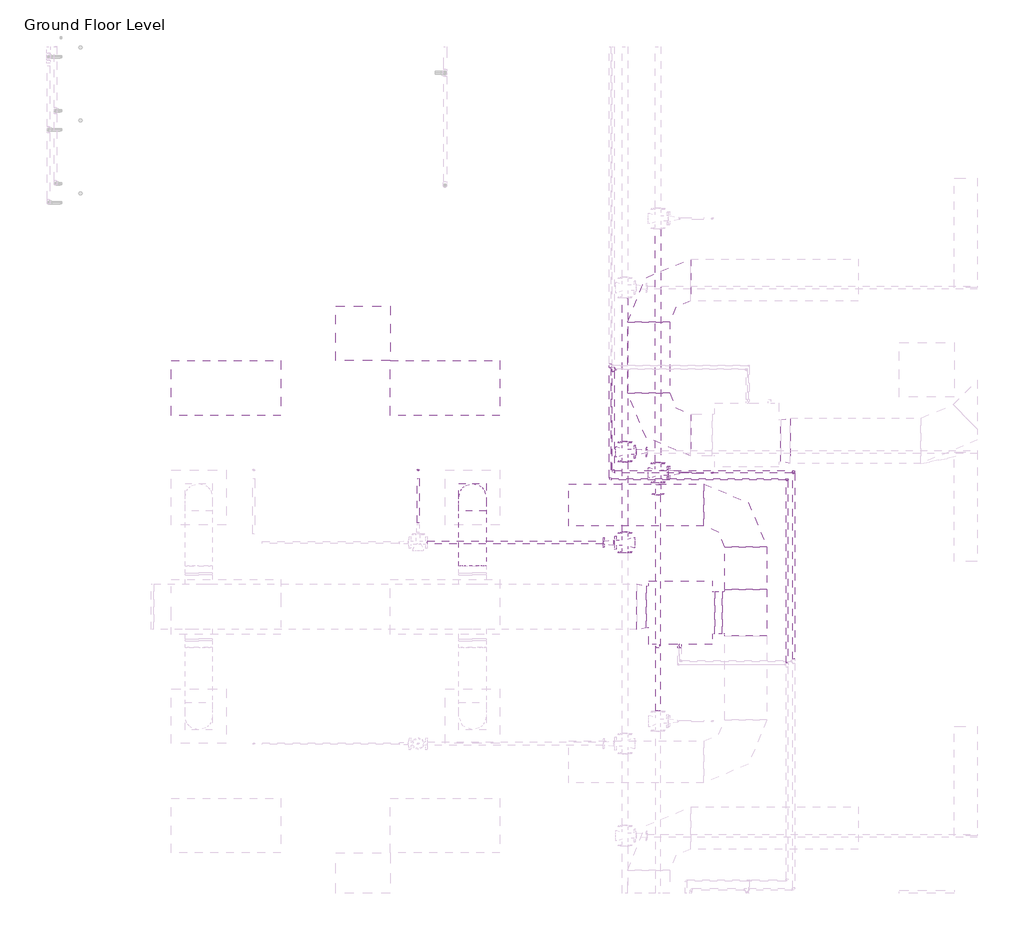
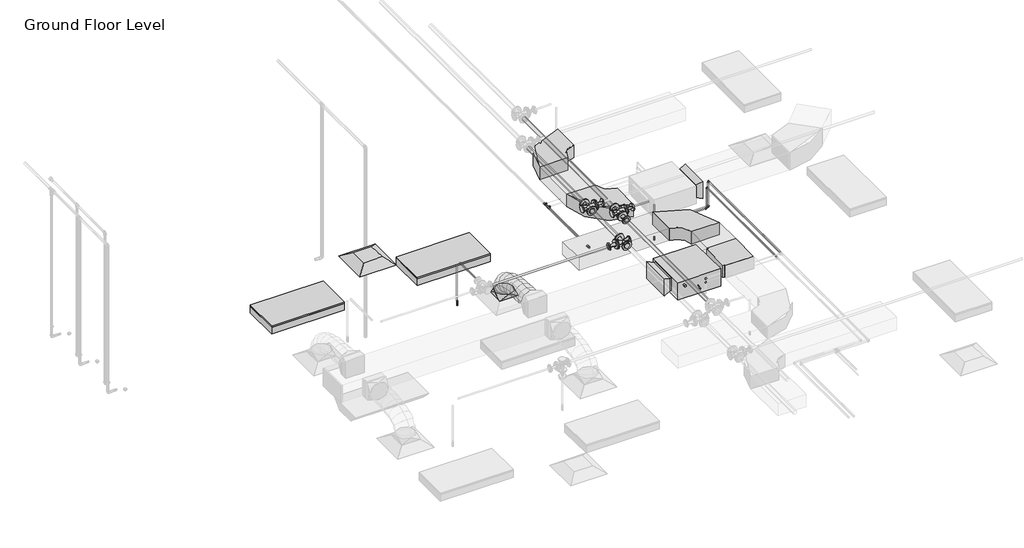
# One storey, part 63 of 75: 17 pipe fittings, 17 pipe segments, 7 duct fittings, 5 duct segments, 2 fire suppression terminals, 2 light fixtures, 1 air terminal, 1 proxy.
"""IFC4 building model written with IfcOpenShell, lengths in millimetres."""

from ifc_helpers import new_model, si_unit, point, frame, frame_2d, origin, place, context, project, spatial, polyline, circle_curve, ellipse_curve, trimmed, segment, composite_curve, outline, extrude, transform, mapped, element, save
from ifc_brep_helpers import plane_surface, cylinder_surface, advanced_brep
from components import m_return_diffuser_600_x_600_face_300_x_300_connection_ff221211, fcu_daikin_iu_bad131e0, m_rectangular_elbow_radius_1_w_54c96895, m_rectangular_tee_standard_fa4de0e8, m_rectangular_transition_angle_45_degree_2b595dfe, m_rectangular_to_round_transition_angle_45_degree_641efff0, m_sprinkler_dry_pendent_hosted_15_mm_dry_pendent_9bda8e11, m_sprinkler_pendent_15_mm_pendent_06fcbd8e, m_troffer_light_parabolic_rectangular1_0600x1200mm_4_lamp_86473d4a, m_elbow_generic_standard_73005802, m_elbow_generic_standard_bb5ffebe, m_reducer_flanged_cs_class_150_standard_9dfe9ec5, m_reducer_flanged_cs_class_150_standard_3ab32b2b, m_reducer_flanged_cs_class_150_standard_a7631c35, m_tee_generic_standard_cdc1cff5, m_tee_generic_standard_bbfc025c, m_tee_round_base_flanged_cs_class_150_standard_dd767e04, m_transition_generic_standard_e9aec4dd, m_transition_generic_standard_c2658a33

model = new_model("IFC4")

# Units and contexts
model_context = context("Model", 3, world=origin())
ifc_project = project(units=[si_unit("LENGTHUNIT", "METRE", prefix="MILLI")], contexts=[model_context])

# Site, building, storey
site = spatial("IfcSite", under=ifc_project)
building = spatial("IfcBuilding", under=site)
storey = spatial("IfcBuildingStorey", under=building, Name="Ground Floor Level", Elevation=900.0)

# Air terminal
placement = place(None, origin())
m_return_diffuser_600_x_600_face_300_x_300_connection_shape = m_return_diffuser_600_x_600_face_300_x_300_connection_ff221211(model_context)
element("IfcAirTerminal", 1, ObjectType="M_Return Diffuser : 600 x 600 Face 300 x 300 Connection", at=placement, inside=storey, context=model_context, shape_type="MappedRepresentation", body=[
    mapped(m_return_diffuser_600_x_600_face_300_x_300_connection_shape, transform((2762.7672395, 7135.2153534, 3650.0), x_axis=(1.0, 0.0, 0.0), y_axis=(0.0, 1.0, 0.0), z_axis=(0.0, 0.0, 1.0))),
])

# Proxy
fcu_daikin_iu_shape = fcu_daikin_iu_bad131e0(model_context)
element("IfcBuildingElementProxy", 2, Name="FCU-DAIKIN IU : 4.5kW, 230V/50Hz/1Ph", ObjectType="FCU-DAIKIN IU : 4.5kW, 230V/50Hz/1Ph", at=placement, inside=storey, context=model_context, shape_type="MappedRepresentation", body=[
    mapped(fcu_daikin_iu_shape, transform((6243.4139492, 4071.5199167, 3934.0875), x_axis=(0.0, -1.0, 0.0), y_axis=(1.0, 0.0, 0.0), z_axis=(0.0, 0.0, 1.0))),
])

# Duct fittings
m_rectangular_elbow_radius_1_w_shape = m_rectangular_elbow_radius_1_w_54c96895(model_context)
element("IfcDuctFitting", 3, ObjectType="M_Rectangular Elbow - Radius : 1 W", at=placement, inside=storey, context=model_context, shape_type="MappedRepresentation", body=[
    mapped(m_rectangular_elbow_radius_1_w_shape, transform((5893.4139492, 6019.6779527, 4075.2932729), x_axis=(0.0, -1.0, 0.0), y_axis=(1.0, 0.0, 0.0), z_axis=(0.0, 0.0, 1.0))),
])
element("IfcDuctFitting", 4, ObjectType="M_Rectangular Elbow - Radius : 1 W", at=placement, inside=storey, context=model_context, shape_type="MappedRepresentation", body=[
    mapped(m_rectangular_elbow_radius_1_w_shape, transform((5893.4139492, 7719.6783949, 4075.2932729), x_axis=(-1.0, 0.0, 0.0), y_axis=(0.0, -1.0, 0.0), z_axis=(0.0, 0.0, 1.0))),
])
element("IfcDuctFitting", 5, ObjectType="M_Rectangular Elbow - Radius : 1 W", at=placement, inside=storey, context=model_context, shape_type="MappedRepresentation", body=[
    mapped(m_rectangular_elbow_radius_1_w_shape, transform((6958.8139492, 5251.5199167, 4075.2875), x_axis=(0.0, 1.0, 0.0), y_axis=(-1.0, 0.0, 0.0), z_axis=(0.0, 0.0, 1.0))),
])
m_rectangular_tee_standard_shape = m_rectangular_tee_standard_fa4de0e8(model_context)
element("IfcDuctFitting", 6, ObjectType="M_Rectangular Tee : Standard", at=placement, inside=storey, context=model_context, shape_type="MappedRepresentation", body=[
    mapped(m_rectangular_tee_standard_shape, transform((6958.8139492, 4071.5199167, 4075.2875), x_axis=(0.0, -1.0, 0.0), y_axis=(1.0, 0.0, 0.0), z_axis=(0.0, 0.0, 1.0))),
])
m_rectangular_transition_angle_45_degree_shape = m_rectangular_transition_angle_45_degree_2b595dfe(model_context)
element("IfcDuctFitting", 7, ObjectType="M_Rectangular Transition - Angle : 45 Degree", at=placement, inside=storey, context=model_context, shape_type="MappedRepresentation", body=[
    mapped(m_rectangular_transition_angle_45_degree_shape, transform((7344.2139492, 5956.1779527, 4100.0057729), x_axis=(1.0, 0.0, 0.0), y_axis=(0.0, 1.0, 0.0), z_axis=(0.0, 0.0, 1.0))),
])
element("IfcDuctFitting", 8, ObjectType="M_Rectangular Transition - Angle : 45 Degree", at=placement, inside=storey, context=model_context, shape_type="MappedRepresentation", body=[
    mapped(m_rectangular_transition_angle_45_degree_shape, transform((5868.0139492, 4135.0199167, 4100.0), x_axis=(-1.0, 0.0, 0.0), y_axis=(0.0, -1.0, 0.0), z_axis=(0.0, 0.0, 1.0))),
])
m_rectangular_to_round_transition_angle_45_degree_shape = m_rectangular_to_round_transition_angle_45_degree_641efff0(model_context)
element("IfcDuctFitting", 9, ObjectType="M_Rectangular to Round Transition - Angle : 45 Degree", at=placement, inside=storey, context=model_context, shape_type="MappedRepresentation", body=[
    mapped(m_rectangular_to_round_transition_angle_45_degree_shape, transform((3962.7672395, 5335.2153534, 3751.6), x_axis=(0.0, 0.0, 1.0), y_axis=(-1.0, 0.0, 0.0), z_axis=(0.0, -1.0, 0.0))),
])

# Duct segments
element("IfcDuctSegment", 10, ObjectType="Flex - Round", at=placement, inside=storey, context=model_context, shape_type="AdvancedBrep", body=[
    advanced_brep(
    [(4112.7672395, 5335.2153534, 3826.6), (3962.7672395, 5185.2153534, 3826.6), (3812.7672395, 5335.2153534, 3826.6), (3962.7672395, 5485.2153534, 3826.6), (4112.7672395, 5335.2153534, 3857.9378899), (3962.7672395, 5185.2153534, 3832.2944495), (3812.7672395, 5335.2153534, 3857.9378899), (3962.7672395, 5485.2153534, 3883.5813304), (4112.7672395, 5318.1993029, 3906.2506504), (3962.7672395, 5184.4615918, 3834.4345644), (3812.7672395, 5318.1993029, 3906.2506504), (3962.7672395, 5451.9370141, 3978.0667363), (4112.7672395, 5271.0151016, 3968.7111185), (3962.7672395, 5166.8099301, 3857.8010943), (3812.7672395, 5271.0151016, 3968.7111185), (3962.7672395, 5375.220273, 4079.6211427), (4112.7672395, 5199.4586743, 4016.0693384), (3962.7672395, 5130.5257656, 3881.8150579), (3812.7672395, 5199.4586743, 4016.0693384), (3962.7672395, 5268.3915831, 4150.3236188), (4112.7672395, 5109.3259463, 4050.413244), (3962.7672395, 5065.7664368, 3906.4907592), (3812.7672395, 5109.3259463, 4050.413244), (3962.7672395, 5152.8854558, 4194.3357287), (4112.7672395, 5006.4128425, 4073.8307693), (3962.7672395, 4979.8531069, 3926.0400441), (3812.7672395, 5006.4128425, 4073.8307693), (3962.7672395, 5032.9725781, 4221.6214946), (4112.7672395, 4896.5152879, 4088.4098484), (3962.7672395, 4881.3654185, 3939.1054831), (3812.7672395, 4896.5152879, 4088.4098484), (3962.7672395, 4911.6651573, 4237.7142137), (4112.7672395, 4785.4292075, 4096.2384151), (3962.7672395, 4777.924683, 3946.3952596), (3812.7672395, 4785.4292075, 4096.2384151), (3962.7672395, 4792.9337321, 4246.0815706), (4112.7672395, 4678.9505265, 4099.4044036), (3962.7672395, 4676.2595056, 3949.4181256), (3812.7672395, 4678.9505265, 4099.4044036), (3962.7672395, 4681.6415474, 4249.3906816), (4112.7672395, 4582.8751699, 4099.9957478), (3962.7672395, 4583.7984029, 4249.9929065), (3812.7672395, 4582.8751699, 4099.9957478), (3962.7672395, 4581.9519368, 3949.998589)],
    [
        (0, 1, circle_curve(frame((3962.7672395, 5335.2153534, 3826.6), z_axis=(0.0, 0.0, -1.0), x_axis=(1.0, 0.0, 0.0)), 150.0)),
        (1, 2, circle_curve(frame((3962.7672395, 5335.2153534, 3826.6), z_axis=(0.0, 0.0, -1.0), x_axis=(1.0, 0.0, 0.0)), 150.0)),
        (2, 3, circle_curve(frame((3962.7672395, 5335.2153534, 3826.6), z_axis=(0.0, 0.0, -1.0), x_axis=(1.0, 0.0, 0.0)), 150.0)),
        (3, 0, circle_curve(frame((3962.7672395, 5335.2153534, 3826.6), z_axis=(0.0, 0.0, -1.0), x_axis=(1.0, 0.0, 0.0)), 150.0)),
        (0, 4),
        (4, 5, ellipse_curve(frame((3962.7672395, 5335.2153534, 3857.9378899), z_axis=(0.0, 0.1685115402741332, -0.9856996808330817), x_axis=(0.0, -0.9856996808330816, -0.16851154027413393)), 152.1761678, 150.0)),
        (5, 1),
        (5, 6, ellipse_curve(frame((3962.7672395, 5335.2153534, 3857.9378899), z_axis=(0.0, 0.1685115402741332, -0.9856996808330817), x_axis=(0.0, -0.9856996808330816, -0.16851154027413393)), 152.1761678, 150.0)),
        (6, 2),
        (6, 7, ellipse_curve(frame((3962.7672395, 5335.2153534, 3857.9378899), z_axis=(0.0, 0.1685115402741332, -0.9856996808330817), x_axis=(0.0, -0.9856996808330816, -0.16851154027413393)), 152.1761678, 150.0)),
        (7, 3),
        (7, 4, ellipse_curve(frame((3962.7672395, 5335.2153534, 3857.9378899), z_axis=(0.0, 0.1685115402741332, -0.9856996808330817), x_axis=(0.0, -0.9856996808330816, -0.16851154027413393)), 152.1761678, 150.0)),
        (4, 8),
        (8, 9, ellipse_curve(frame((3962.7672395, 5318.1993029, 3906.2506504), z_axis=(0.0, 0.47309586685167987, -0.8810109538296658), x_axis=(0.0, -0.8810109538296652, -0.4730958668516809)), 151.8002819, 150.0)),
        (9, 5),
        (9, 10, ellipse_curve(frame((3962.7672395, 5318.1993029, 3906.2506504), z_axis=(0.0, 0.47309586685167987, -0.8810109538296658), x_axis=(0.0, -0.8810109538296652, -0.4730958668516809)), 151.8002819, 150.0)),
        (10, 6),
        (10, 11, ellipse_curve(frame((3962.7672395, 5318.1993029, 3906.2506504), z_axis=(0.0, 0.47309586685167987, -0.8810109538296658), x_axis=(0.0, -0.8810109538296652, -0.4730958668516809)), 151.8002819, 150.0)),
        (11, 7),
        (11, 8, ellipse_curve(frame((3962.7672395, 5318.1993029, 3906.2506504), z_axis=(0.0, 0.47309586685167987, -0.8810109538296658), x_axis=(0.0, -0.8810109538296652, -0.4730958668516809)), 151.8002819, 150.0)),
        (8, 12),
        (12, 13, ellipse_curve(frame((3962.7672395, 5271.0151016, 3968.7111185), z_axis=(0.0, 0.7287924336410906, -0.6847346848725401), x_axis=(0.0, -0.6847346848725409, -0.7287924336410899)), 152.1832817, 150.0)),
        (13, 9),
        (13, 14, ellipse_curve(frame((3962.7672395, 5271.0151016, 3968.7111185), z_axis=(0.0, 0.7287924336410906, -0.6847346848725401), x_axis=(0.0, -0.6847346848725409, -0.7287924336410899)), 152.1832817, 150.0)),
        (14, 10),
        (14, 15, ellipse_curve(frame((3962.7672395, 5271.0151016, 3968.7111185), z_axis=(0.0, 0.7287924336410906, -0.6847346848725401), x_axis=(0.0, -0.6847346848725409, -0.7287924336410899)), 152.1832817, 150.0)),
        (15, 11),
        (15, 12, ellipse_curve(frame((3962.7672395, 5271.0151016, 3968.7111185), z_axis=(0.0, 0.7287924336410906, -0.6847346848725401), x_axis=(0.0, -0.6847346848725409, -0.7287924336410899)), 152.1832817, 150.0)),
        (12, 16),
        (16, 17, ellipse_curve(frame((3962.7672395, 5199.4586743, 4016.0693384), z_axis=(0.0, 0.8895898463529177, -0.45676022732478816), x_axis=(0.0, -0.456760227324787, -0.8895898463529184)), 150.9170558, 150.0)),
        (17, 13),
        (17, 18, ellipse_curve(frame((3962.7672395, 5199.4586743, 4016.0693384), z_axis=(0.0, 0.8895898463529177, -0.45676022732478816), x_axis=(0.0, -0.456760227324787, -0.8895898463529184)), 150.9170558, 150.0)),
        (18, 14),
        (18, 19, ellipse_curve(frame((3962.7672395, 5199.4586743, 4016.0693384), z_axis=(0.0, 0.8895898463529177, -0.45676022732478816), x_axis=(0.0, -0.456760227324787, -0.8895898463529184)), 150.9170558, 150.0)),
        (19, 15),
        (19, 16, ellipse_curve(frame((3962.7672395, 5199.4586743, 4016.0693384), z_axis=(0.0, 0.8895898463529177, -0.45676022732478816), x_axis=(0.0, -0.456760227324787, -0.8895898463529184)), 150.9170558, 150.0)),
        (16, 20),
        (20, 21, ellipse_curve(frame((3962.7672395, 5109.3259463, 4050.413244), z_axis=(0.0, 0.9571228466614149, -0.28968233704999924), x_axis=(0.0, -0.28968233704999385, -0.9571228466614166)), 150.3699188, 150.0)),
        (21, 17),
        (21, 22, ellipse_curve(frame((3962.7672395, 5109.3259463, 4050.413244), z_axis=(0.0, 0.9571228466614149, -0.28968233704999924), x_axis=(0.0, -0.28968233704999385, -0.9571228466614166)), 150.3699188, 150.0)),
        (22, 18),
        (22, 23, ellipse_curve(frame((3962.7672395, 5109.3259463, 4050.413244), z_axis=(0.0, 0.9571228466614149, -0.28968233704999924), x_axis=(0.0, -0.28968233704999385, -0.9571228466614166)), 150.3699188, 150.0)),
        (23, 19),
        (23, 20, ellipse_curve(frame((3962.7672395, 5109.3259463, 4050.413244), z_axis=(0.0, 0.9571228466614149, -0.28968233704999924), x_axis=(0.0, -0.28968233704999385, -0.9571228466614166)), 150.3699188, 150.0)),
        (20, 24),
        (24, 25, ellipse_curve(frame((3962.7672395, 5006.4128425, 4073.8307693), z_axis=(0.0, 0.9842327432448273, -0.17687822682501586), x_axis=(0.0, -0.176878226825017, -0.9842327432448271)), 150.1583099, 150.0)),
        (25, 21),
        (25, 26, ellipse_curve(frame((3962.7672395, 5006.4128425, 4073.8307693), z_axis=(0.0, 0.9842327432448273, -0.17687822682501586), x_axis=(0.0, -0.176878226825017, -0.9842327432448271)), 150.1583099, 150.0)),
        (26, 22),
        (26, 27, ellipse_curve(frame((3962.7672395, 5006.4128425, 4073.8307693), z_axis=(0.0, 0.9842327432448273, -0.17687822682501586), x_axis=(0.0, -0.176878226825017, -0.9842327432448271)), 150.1583099, 150.0)),
        (27, 23),
        (27, 24, ellipse_curve(frame((3962.7672395, 5006.4128425, 4073.8307693), z_axis=(0.0, 0.9842327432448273, -0.17687822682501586), x_axis=(0.0, -0.176878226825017, -0.9842327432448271)), 150.1583099, 150.0)),
        (24, 28),
        (28, 29, ellipse_curve(frame((3962.7672395, 4896.5152879, 4088.4098484), z_axis=(0.0, 0.9948913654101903, -0.10095133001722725), x_axis=(0.0, -0.10095133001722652, -0.9948913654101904)), 150.0710233, 150.0)),
        (29, 25),
        (29, 30, ellipse_curve(frame((3962.7672395, 4896.5152879, 4088.4098484), z_axis=(0.0, 0.9948913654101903, -0.10095133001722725), x_axis=(0.0, -0.10095133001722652, -0.9948913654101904)), 150.0710233, 150.0)),
        (30, 26),
        (30, 31, ellipse_curve(frame((3962.7672395, 4896.5152879, 4088.4098484), z_axis=(0.0, 0.9948913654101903, -0.10095133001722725), x_axis=(0.0, -0.10095133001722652, -0.9948913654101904)), 150.0710233, 150.0)),
        (31, 27),
        (31, 28, ellipse_curve(frame((3962.7672395, 4896.5152879, 4088.4098484), z_axis=(0.0, 0.9948913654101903, -0.10095133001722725), x_axis=(0.0, -0.10095133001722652, -0.9948913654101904)), 150.0710233, 150.0)),
        (28, 32),
        (32, 33, ellipse_curve(frame((3962.7672395, 4785.4292075, 4096.2384151), z_axis=(0.0, 0.9987482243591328, -0.05001983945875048), x_axis=(0.0, -0.05001983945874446, -0.9987482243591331)), 150.0309606, 150.0)),
        (33, 29),
        (33, 34, ellipse_curve(frame((3962.7672395, 4785.4292075, 4096.2384151), z_axis=(0.0, 0.9987482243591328, -0.05001983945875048), x_axis=(0.0, -0.05001983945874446, -0.9987482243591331)), 150.0309606, 150.0)),
        (34, 30),
        (34, 35, ellipse_curve(frame((3962.7672395, 4785.4292075, 4096.2384151), z_axis=(0.0, 0.9987482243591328, -0.05001983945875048), x_axis=(0.0, -0.05001983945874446, -0.9987482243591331)), 150.0309606, 150.0)),
        (35, 31),
        (35, 32, ellipse_curve(frame((3962.7672395, 4785.4292075, 4096.2384151), z_axis=(0.0, 0.9987482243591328, -0.05001983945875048), x_axis=(0.0, -0.05001983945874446, -0.9987482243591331)), 150.0309606, 150.0)),
        (32, 36),
        (36, 37, ellipse_curve(frame((3962.7672395, 4678.9505265, 4099.4044036), z_axis=(0.0, 0.9998390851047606, -0.017938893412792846), x_axis=(0.0, -0.01793889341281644, -0.99983908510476)), 150.0104169, 150.0)),
        (37, 33),
        (37, 38, ellipse_curve(frame((3962.7672395, 4678.9505265, 4099.4044036), z_axis=(0.0, 0.9998390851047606, -0.017938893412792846), x_axis=(0.0, -0.01793889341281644, -0.99983908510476)), 150.0104169, 150.0)),
        (38, 34),
        (38, 39, ellipse_curve(frame((3962.7672395, 4678.9505265, 4099.4044036), z_axis=(0.0, 0.9998390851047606, -0.017938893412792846), x_axis=(0.0, -0.01793889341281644, -0.99983908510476)), 150.0104169, 150.0)),
        (39, 35),
        (39, 36, ellipse_curve(frame((3962.7672395, 4678.9505265, 4099.4044036), z_axis=(0.0, 0.9998390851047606, -0.017938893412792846), x_axis=(0.0, -0.01793889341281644, -0.99983908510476)), 150.0104169, 150.0)),
        (40, 41, circle_curve(frame((3962.7672395, 4582.8751699, 4099.9957478), z_axis=(0.0, -0.9999810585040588, 0.006154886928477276), x_axis=(1.0, 0.0, 0.0)), 150.0)),
        (41, 42, circle_curve(frame((3962.7672395, 4582.8751699, 4099.9957478), z_axis=(0.0, -0.9999810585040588, 0.006154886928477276), x_axis=(1.0, 0.0, 0.0)), 150.0)),
        (42, 43, circle_curve(frame((3962.7672395, 4582.8751699, 4099.9957478), z_axis=(0.0, -0.9999810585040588, 0.006154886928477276), x_axis=(1.0, 0.0, 0.0)), 150.0)),
        (43, 40, circle_curve(frame((3962.7672395, 4582.8751699, 4099.9957478), z_axis=(0.0, -0.9999810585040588, 0.006154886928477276), x_axis=(1.0, 0.0, 0.0)), 150.0)),
        (36, 40),
        (43, 37),
        (42, 38),
        (41, 39),
    ],
    [
        plane_surface(frame((3962.7672395, 5185.2153534, 3826.6), z_axis=(0.0, 0.0, -1.0), x_axis=(1.0, 0.0, 0.0))),
        cylinder_surface(frame((3962.7672395, 5335.2153534, 3826.6), z_axis=(0.0, 0.0, -1.0), x_axis=(1.0, 0.0, 0.0)), 150.0),
        cylinder_surface(frame((3962.7672395, 5335.2153534, 3857.9378899), z_axis=(0.0, 0.3322035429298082, -0.9432077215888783), x_axis=(1.0, 0.0, 0.0)), 150.0),
        cylinder_surface(frame((3962.7672395, 5318.1993029, 3906.2506504), z_axis=(0.0, 0.6027667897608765, -0.797917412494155), x_axis=(1.0, 0.0, 0.0)), 150.0),
        cylinder_surface(frame((3962.7672395, 5271.0151016, 3968.7111185), z_axis=(0.0, 0.8339069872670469, -0.5519050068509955), x_axis=(1.0, 0.0, 0.0)), 150.0),
        cylinder_surface(frame((3962.7672395, 5199.4586743, 4016.0693384), z_axis=(0.0, 0.934461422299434, -0.35606439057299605), x_axis=(1.0, 0.0, 0.0)), 150.0),
        cylinder_surface(frame((3962.7672395, 5109.3259463, 4050.413244), z_axis=(0.0, 0.9750751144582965, -0.22187501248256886), x_axis=(1.0, 0.0, 0.0)), 150.0),
        cylinder_surface(frame((3962.7672395, 5006.4128425, 4073.8307693), z_axis=(0.0, 0.9913150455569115, -0.1315084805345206), x_axis=(1.0, 0.0, 0.0)), 150.0),
        cylinder_surface(frame((3962.7672395, 4896.5152879, 4088.4098484), z_axis=(0.0, 0.997525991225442, -0.07029862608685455), x_axis=(1.0, 0.0, 0.0)), 150.0),
        cylinder_surface(frame((3962.7672395, 4785.4292075, 4096.2384151), z_axis=(0.0, 0.9995582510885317, -0.029720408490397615), x_axis=(1.0, 0.0, 0.0)), 150.0),
        plane_surface(frame((3962.7672395, 4581.9519368, 3949.998589), z_axis=(0.0, -0.9999810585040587, 0.006154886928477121), x_axis=(1.0, 0.0, 0.0))),
        cylinder_surface(frame((3962.7672395, 4678.9505265, 4099.4044036), z_axis=(0.0, 0.9999810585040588, -0.006154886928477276), x_axis=(1.0, 0.0, 0.0)), 150.0),
    ],
    [
        (0, [[1, 2, 3, 4]]),
        (1, [[-1, 5, 6, 7]]),
        (1, [[-2, -7, 8, 9]]),
        (1, [[-3, -9, 10, 11]]),
        (1, [[-4, -11, 12, -5]]),
        (2, [[-6, 13, 14, 15]]),
        (2, [[-8, -15, 16, 17]]),
        (2, [[-10, -17, 18, 19]]),
        (2, [[-12, -19, 20, -13]]),
        (3, [[-14, 21, 22, 23]]),
        (3, [[-16, -23, 24, 25]]),
        (3, [[-18, -25, 26, 27]]),
        (3, [[-20, -27, 28, -21]]),
        (4, [[-22, 29, 30, 31]]),
        (4, [[-24, -31, 32, 33]]),
        (4, [[-26, -33, 34, 35]]),
        (4, [[-28, -35, 36, -29]]),
        (5, [[-30, 37, 38, 39]]),
        (5, [[-32, -39, 40, 41]]),
        (5, [[-34, -41, 42, 43]]),
        (5, [[-36, -43, 44, -37]]),
        (6, [[-38, 45, 46, 47]]),
        (6, [[-40, -47, 48, 49]]),
        (6, [[-42, -49, 50, 51]]),
        (6, [[-44, -51, 52, -45]]),
        (7, [[-46, 53, 54, 55]]),
        (7, [[-48, -55, 56, 57]]),
        (7, [[-50, -57, 58, 59]]),
        (7, [[-52, -59, 60, -53]]),
        (8, [[-54, 61, 62, 63]]),
        (8, [[-56, -63, 64, 65]]),
        (8, [[-58, -65, 66, 67]]),
        (8, [[-60, -67, 68, -61]]),
        (9, [[-62, 69, 70, 71]]),
        (9, [[-64, -71, 72, 73]]),
        (9, [[-66, -73, 74, 75]]),
        (9, [[-68, -75, 76, -69]]),
        (10, [[77, 78, 79, 80]]),
        (11, [[-70, 81, -80, 82]]),
        (11, [[-72, -82, -79, 83]]),
        (11, [[-74, -83, -78, 84]]),
        (11, [[-76, -84, -77, -81]]),
    ],
),
])
element("IfcDuctSegment", 11, ObjectType="Radius Elbows / Taps", at=placement, inside=storey, context=model_context, shape_type="SweptSolid", body=[
    extrude(outline(polyline([(6124.3514492, 6481.5529527), (5662.4764492, 6481.5529527), (5662.4764492, 7257.8033949), (6124.3514492, 7257.8033949), (6124.3514492, 6481.5529527)])), frame((0.0, 0.0, 3968.1432729), z_axis=(0.0, 0.0, 1.0), x_axis=(1.0, 0.0, 0.0)), (0.0, 0.0, 1.0), 214.3),
])
element("IfcDuctSegment", 12, ObjectType="Radius Elbows / Taps", at=placement, inside=storey, context=model_context, shape_type="SweptSolid", body=[
    extrude(outline(polyline([(6618.8139492, 3840.5824167), (6618.8139492, 4302.4574167), (6702.8764492, 4302.4574167), (6702.8764492, 3840.5824167), (6618.8139492, 3840.5824167)])), frame((0.0, 0.0, 3968.1375), z_axis=(0.0, 0.0, 1.0), x_axis=(1.0, 0.0, 0.0)), (0.0, 0.0, 1.0), 214.3),
])
element("IfcDuctSegment", 13, ObjectType="Radius Elbows / Taps", at=placement, inside=storey, context=model_context, shape_type="SweptSolid", body=[
    extrude(outline(polyline([(7189.7514492, 4327.4574167), (6727.8764492, 4327.4574167), (6727.8764492, 4789.6449167), (7189.7514492, 4789.6449167), (7189.7514492, 4327.4574167)])), frame((0.0, 0.0, 3968.1375), z_axis=(0.0, 0.0, 1.0), x_axis=(1.0, 0.0, 0.0)), (0.0, 0.0, 1.0), 214.3),
])
element("IfcDuctSegment", 14, ObjectType="Radius Elbows / Taps", at=placement, inside=storey, context=model_context, shape_type="SweptSolid", body=[
    extrude(outline(polyline([(6496.9389492, 5482.4574167), (6496.9389492, 5020.5824167), (5018.8139492, 5020.5824167), (5018.8139492, 5482.4574167), (6496.9389492, 5482.4574167)])), frame((0.0, 0.0, 3968.1375), z_axis=(0.0, 0.0, 1.0), x_axis=(1.0, 0.0, 0.0)), (0.0, 0.0, 1.0), 214.3),
])

# Fire suppression terminals
m_sprinkler_dry_pendent_hosted_15_mm_dry_pendent_shape = m_sprinkler_dry_pendent_hosted_15_mm_dry_pendent_9bda8e11(model_context)
element("IfcFireSuppressionTerminal", 15, ObjectType="M_Sprinkler - Dry - Pendent - Hosted : 15 mm Dry Pendent", at=placement, inside=storey, context=model_context, shape_type="MappedRepresentation", body=[
    mapped(m_sprinkler_dry_pendent_hosted_15_mm_dry_pendent_shape, transform((3367.3772563, 5635.2153534, 3650.0), x_axis=(1.0, 0.0, 0.0), y_axis=(0.0, -1.0, 0.0), z_axis=(0.0, 0.0, -1.0))),
])
m_sprinkler_pendent_15_mm_pendent_shape = m_sprinkler_pendent_15_mm_pendent_06fcbd8e(model_context)
element("IfcFireSuppressionTerminal", 16, ObjectType="M_Sprinkler - Pendent : 15 mm Pendent", at=placement, inside=storey, context=model_context, shape_type="MappedRepresentation", body=[
    mapped(m_sprinkler_pendent_15_mm_pendent_shape, transform((6592.5481019, 5605.2153637, 3650.0), x_axis=(1.0, 0.0, 0.0), y_axis=(0.0, 1.0, 0.0), z_axis=(0.0, 0.0, 1.0))),
])

# Light fixtures
m_troffer_light_parabolic_rectangular1_0600x1200mm_4_lamp_shape = m_troffer_light_parabolic_rectangular1_0600x1200mm_4_lamp_86473d4a(model_context)
element("IfcLightFixture", 17, ObjectType="M_Troffer Light - Parabolic Rectangular1 : 0600x1200mm(4 Lamp) - 277V 2", at=placement, inside=storey, context=model_context, shape_type="MappedRepresentation", body=[
    mapped(m_troffer_light_parabolic_rectangular1_0600x1200mm_4_lamp_shape, transform((1281.4707411, 6594.6812855, 3650.0), x_axis=(1.0, 0.0, 0.0), y_axis=(0.0, 1.0, 0.0), z_axis=(0.0, 0.0, 1.0))),
])
element("IfcLightFixture", 18, ObjectType="M_Troffer Light - Parabolic Rectangular1 : 0600x1200mm(4 Lamp) - 277V 2", at=placement, inside=storey, context=model_context, shape_type="MappedRepresentation", body=[
    mapped(m_troffer_light_parabolic_rectangular1_0600x1200mm_4_lamp_shape, transform((3681.4707411, 6594.6812855, 3650.0), x_axis=(1.0, 0.0, 0.0), y_axis=(0.0, 1.0, 0.0), z_axis=(0.0, 0.0, 1.0))),
])

# Pipe fittings
m_elbow_generic_standard_shape = m_elbow_generic_standard_73005802(model_context)
element("IfcPipeFitting", 19, ObjectType="M_Elbow - Generic : Standard", at=placement, inside=storey, context=model_context, shape_type="MappedRepresentation", body=[
    mapped(m_elbow_generic_standard_shape, transform((7485.0672395, 5616.0098545, 4300.0), x_axis=(0.0, 1.0, 0.0), y_axis=(0.0, 0.0, -1.0), z_axis=(-1.0, 0.0, 0.0))),
])
element("IfcPipeFitting", 20, ObjectType="M_Elbow - Generic : Standard", at=placement, inside=storey, context=model_context, shape_type="MappedRepresentation", body=[
    mapped(m_elbow_generic_standard_shape, transform((7485.0672395, 5616.0098545, 3851.8370709), x_axis=(0.0, 0.0, -1.0), y_axis=(-1.0, 0.0, 0.0), z_axis=(0.0, 1.0, 0.0))),
])
element("IfcPipeFitting", 21, ObjectType="M_Elbow - Generic : Standard", at=placement, inside=storey, context=model_context, shape_type="MappedRepresentation", body=[
    mapped(m_elbow_generic_standard_shape, transform((5505.0672395, 5616.0098545, 3851.8370709), x_axis=(0.0, -1.0, 0.0), y_axis=(1.0, 0.0, 0.0), z_axis=(0.0, 0.0, 1.0))),
])
m_elbow_generic_standard_2_shape = m_elbow_generic_standard_bb5ffebe(model_context)
element("IfcPipeFitting", 22, ObjectType="M_Elbow - Generic : Standard", at=placement, inside=storey, context=model_context, shape_type="MappedRepresentation", body=[
    mapped(m_elbow_generic_standard_2_shape, transform((7412.2057053, 5534.0185138, 4265.0), x_axis=(0.0, 1.0, 0.0), y_axis=(0.0, 0.0, -1.0), z_axis=(-1.0, 0.0, 0.0))),
])
element("IfcPipeFitting", 23, ObjectType="M_Elbow - Generic : Standard", at=placement, inside=storey, context=model_context, shape_type="MappedRepresentation", body=[
    mapped(m_elbow_generic_standard_2_shape, transform((7412.2057053, 5534.0185138, 3894.9), x_axis=(0.0, 0.0, -1.0), y_axis=(-1.0, 0.0, 0.0), z_axis=(0.0, 1.0, 0.0))),
])
element("IfcPipeFitting", 24, ObjectType="M_Elbow - Generic : Standard", at=placement, inside=storey, context=model_context, shape_type="MappedRepresentation", body=[
    mapped(m_elbow_generic_standard_2_shape, transform((5472.2057053, 5534.0185138, 3894.9), x_axis=(0.0, -1.0, 0.0), y_axis=(1.0, 0.0, 0.0), z_axis=(0.0, 0.0, 1.0))),
])
m_reducer_flanged_cs_class_150_standard_shape = m_reducer_flanged_cs_class_150_standard_9dfe9ec5(model_context)
element("IfcPipeFitting", 25, ObjectType="M_Reducer - Flanged - CS - Class 150 : Standard", at=placement, inside=storey, context=model_context, shape_type="MappedRepresentation", body=[
    mapped(m_reducer_flanged_cs_class_150_standard_shape, transform((6111.057812, 5605.2153637, 4291.250653), x_axis=(1.0, 0.0, 0.0), y_axis=(0.0, 0.0, -1.0), z_axis=(0.0, 1.0, 0.0))),
])
m_reducer_flanged_cs_class_150_standard_2_shape = m_reducer_flanged_cs_class_150_standard_3ab32b2b(model_context)
element("IfcPipeFitting", 26, ObjectType="M_Reducer - Flanged - CS - Class 150 : Standard", at=placement, inside=storey, context=model_context, shape_type="MappedRepresentation", body=[
    mapped(m_reducer_flanged_cs_class_150_standard_2_shape, transform((5997.057812, 5491.2153637, 4291.0695218), x_axis=(0.0, -1.0, 0.0), y_axis=(1.0, 0.0, 0.0), z_axis=(0.0, 0.0, 1.0))),
])
m_reducer_flanged_cs_class_150_standard_3_shape = m_reducer_flanged_cs_class_150_standard_a7631c35(model_context)
element("IfcPipeFitting", 27, ObjectType="M_Reducer - Flanged - CS - Class 150 : Standard", at=placement, inside=storey, context=model_context, shape_type="MappedRepresentation", body=[
    mapped(m_reducer_flanged_cs_class_150_standard_3_shape, transform((5749.869498, 5835.2153534, 4360.0), x_axis=(1.0, 0.0, 0.0), y_axis=(0.0, 0.0, 1.0), z_axis=(0.0, -1.0, 0.0))),
])
element("IfcPipeFitting", 28, ObjectType="M_Reducer - Flanged - CS - Class 150 : Standard", at=placement, inside=storey, context=model_context, shape_type="MappedRepresentation", body=[
    mapped(m_reducer_flanged_cs_class_150_standard_3_shape, transform((5521.869498, 4839.8698912, 4360.0), x_axis=(-1.0, 0.0, 0.0), y_axis=(0.0, -1.0, 0.0), z_axis=(0.0, 0.0, 1.0))),
])
m_tee_generic_standard_shape = m_tee_generic_standard_cdc1cff5(model_context)
element("IfcPipeFitting", 29, ObjectType="M_Tee - Generic : Standard", at=placement, inside=storey, context=model_context, shape_type="MappedRepresentation", body=[
    mapped(m_tee_generic_standard_shape, transform((5472.2057053, 6781.5253374, 3894.9), x_axis=(0.0, 1.0, 0.0), y_axis=(-1.0, 0.0, 0.0), z_axis=(0.0, 0.0, 1.0))),
])
m_tee_generic_standard_2_shape = m_tee_generic_standard_bbfc025c(model_context)
element("IfcPipeFitting", 30, ObjectType="M_Tee - Generic : Standard", at=placement, inside=storey, context=model_context, shape_type="MappedRepresentation", body=[
    mapped(m_tee_generic_standard_2_shape, transform((5505.0672395, 6741.4098545, 3851.8370709), x_axis=(0.0, 1.0, 0.0), y_axis=(-1.0, 0.0, 0.0), z_axis=(0.0, 0.0, 1.0))),
])
m_tee_round_base_flanged_cs_class_150_standard_shape = m_tee_round_base_flanged_cs_class_150_standard_dd767e04(model_context)
element("IfcPipeFitting", 31, ObjectType="M_Tee Round Base - Flanged - CS - Class 150 : Standard", at=placement, inside=storey, context=model_context, shape_type="MappedRepresentation", body=[
    mapped(m_tee_round_base_flanged_cs_class_150_standard_shape, transform((5997.057812, 5605.2153637, 4291.0695218), x_axis=(0.0, 1.0, 0.0), y_axis=(-1.0, 0.0, 0.0), z_axis=(0.0, 0.0, 1.0))),
])
element("IfcPipeFitting", 32, ObjectType="M_Tee Round Base - Flanged - CS - Class 150 : Standard", at=placement, inside=storey, context=model_context, shape_type="MappedRepresentation", body=[
    mapped(m_tee_round_base_flanged_cs_class_150_standard_shape, transform((5635.869498, 5835.2153534, 4360.0), x_axis=(0.0, 1.0, 0.0), y_axis=(-1.0, 0.0, 0.0), z_axis=(0.0, 0.0, 1.0))),
])
element("IfcPipeFitting", 33, ObjectType="M_Tee Round Base - Flanged - CS - Class 150 : Standard", at=placement, inside=storey, context=model_context, shape_type="MappedRepresentation", body=[
    mapped(m_tee_round_base_flanged_cs_class_150_standard_shape, transform((5635.869498, 4839.8698912, 4360.0), x_axis=(0.0, 1.0, 0.0), y_axis=(1.0, 0.0, 0.0), z_axis=(0.0, 0.0, -1.0))),
])
m_transition_generic_standard_shape = m_transition_generic_standard_e9aec4dd(model_context)
element("IfcPipeFitting", 34, ObjectType="M_Transition - Generic : Standard", at=placement, inside=storey, context=model_context, shape_type="MappedRepresentation", body=[
    mapped(m_transition_generic_standard_shape, transform((5530.4672395, 6741.4098545, 3851.8370709), x_axis=(1.0, 0.0, 0.0), y_axis=(0.0, 1.0, 0.0), z_axis=(0.0, 0.0, 1.0))),
])
m_transition_generic_standard_2_shape = m_transition_generic_standard_c2658a33(model_context)
element("IfcPipeFitting", 35, ObjectType="M_Transition - Generic : Standard", at=placement, inside=storey, context=model_context, shape_type="MappedRepresentation", body=[
    mapped(m_transition_generic_standard_2_shape, transform((5494.4307053, 6781.5253374, 3894.9), x_axis=(1.0, 0.0, 0.0), y_axis=(0.0, 1.0, 0.0), z_axis=(0.0, 0.0, 1.0))),
])

# Pipe segments
element("IfcPipeSegment", 36, ObjectType="Copper", at=placement, inside=storey, context=model_context, shape_type="SweptSolid", body=[
    extrude(outline(composite_curve([segment(trimmed(circle_curve(frame_2d((3894.9, 5472.2057053)), 8.1), [point((3894.9, 5464.1057053))], [point((3886.8, 5472.2057053))], False, "CARTESIAN"), True, "CONTINUOUS"), segment(trimmed(circle_curve(frame_2d((3894.9, 5472.2057053)), 8.1), [point((3886.8, 5472.2057053))], [point((3894.9, 5480.3057053))], False, "CARTESIAN"), True, "CONTINUOUS"), segment(trimmed(circle_curve(frame_2d((3894.9, 5472.2057053)), 8.1), [point((3894.9, 5480.3057053))], [point((3903.0, 5472.2057053))], False, "CARTESIAN"), True, "CONTINUOUS"), segment(trimmed(circle_curve(frame_2d((3894.9, 5472.2057053)), 8.1), [point((3903.0, 5472.2057053))], [point((3894.9, 5464.1057053))], False, "CARTESIAN"), True, "CONTINUOUS")], self_intersect=False)), frame((0.0, 5549.8935138, 0.0), z_axis=(0.0, 1.0, 0.0), x_axis=(0.0, 0.0, 1.0)), (0.0, 0.0, 1.0), 1209.4068236),
])
element("IfcPipeSegment", 37, ObjectType="Copper", at=placement, inside=storey, context=model_context, shape_type="SweptSolid", body=[
    extrude(outline(composite_curve([segment(trimmed(circle_curve(frame_2d((3851.8370709, 5505.0672395)), 11.5), [point((3851.8370709, 5493.5672395))], [point((3840.3370709, 5505.0672395))], False, "CARTESIAN"), True, "CONTINUOUS"), segment(trimmed(circle_curve(frame_2d((3851.8370709, 5505.0672395)), 11.5), [point((3840.3370709, 5505.0672395))], [point((3851.8370709, 5516.5672395))], False, "CARTESIAN"), True, "CONTINUOUS"), segment(trimmed(circle_curve(frame_2d((3851.8370709, 5505.0672395)), 11.5), [point((3851.8370709, 5516.5672395))], [point((3863.3370709, 5505.0672395))], False, "CARTESIAN"), True, "CONTINUOUS"), segment(trimmed(circle_curve(frame_2d((3851.8370709, 5505.0672395)), 11.5), [point((3863.3370709, 5505.0672395))], [point((3851.8370709, 5493.5672395))], False, "CARTESIAN"), True, "CONTINUOUS")], self_intersect=False)), frame((0.0, 5635.0598545, 0.0), z_axis=(0.0, 1.0, 0.0), x_axis=(0.0, 0.0, 1.0)), (0.0, 0.0, 1.0), 1080.95),
])
element("IfcPipeSegment", 38, ObjectType="Copper", at=placement, inside=storey, context=model_context, shape_type="SweptSolid", body=[
    extrude(outline(composite_curve([segment(trimmed(circle_curve(frame_2d((5616.0098545, 3851.8370709)), 11.5), [point((5627.5098545, 3851.8370709))], [point((5616.0098545, 3840.3370709))], False, "CARTESIAN"), True, "CONTINUOUS"), segment(trimmed(circle_curve(frame_2d((5616.0098545, 3851.8370709)), 11.5), [point((5616.0098545, 3840.3370709))], [point((5604.5098545, 3851.8370709))], False, "CARTESIAN"), True, "CONTINUOUS"), segment(trimmed(circle_curve(frame_2d((5616.0098545, 3851.8370709)), 11.5), [point((5604.5098545, 3851.8370709))], [point((5616.0098545, 3863.3370709))], False, "CARTESIAN"), True, "CONTINUOUS"), segment(trimmed(circle_curve(frame_2d((5616.0098545, 3851.8370709)), 11.5), [point((5616.0098545, 3863.3370709))], [point((5627.5098545, 3851.8370709))], False, "CARTESIAN"), True, "CONTINUOUS")], self_intersect=False)), frame((5524.1172395, 0.0, 0.0), z_axis=(1.0, 0.0, 0.0), x_axis=(0.0, 1.0, 0.0)), (0.0, 0.0, 1.0), 1941.9),
])
element("IfcPipeSegment", 39, ObjectType="Copper", at=placement, inside=storey, context=model_context, shape_type="SweptSolid", body=[
    extrude(outline(composite_curve([segment(trimmed(circle_curve(frame_2d((5534.0185138, 3894.9)), 8.1), [point((5542.1185138, 3894.9))], [point((5534.0185138, 3886.8))], False, "CARTESIAN"), True, "CONTINUOUS"), segment(trimmed(circle_curve(frame_2d((5534.0185138, 3894.9)), 8.1), [point((5534.0185138, 3886.8))], [point((5525.9185138, 3894.9))], False, "CARTESIAN"), True, "CONTINUOUS"), segment(trimmed(circle_curve(frame_2d((5534.0185138, 3894.9)), 8.1), [point((5525.9185138, 3894.9))], [point((5534.0185138, 3903.0))], False, "CARTESIAN"), True, "CONTINUOUS"), segment(trimmed(circle_curve(frame_2d((5534.0185138, 3894.9)), 8.1), [point((5534.0185138, 3903.0))], [point((5542.1185138, 3894.9))], False, "CARTESIAN"), True, "CONTINUOUS")], self_intersect=False)), frame((5488.0807053, 0.0, 0.0), z_axis=(1.0, 0.0, 0.0), x_axis=(0.0, 1.0, 0.0)), (0.0, 0.0, 1.0), 1908.25),
])
element("IfcPipeSegment", 40, ObjectType="Copper", at=placement, inside=storey, context=model_context, shape_type="SweptSolid", body=[
    extrude(outline(composite_curve([segment(trimmed(circle_curve(frame_2d((4265.0, 7412.2057053)), 8.1), [point((4265.0, 7404.1057053))], [point((4256.9, 7412.2057053))], False, "CARTESIAN"), True, "CONTINUOUS"), segment(trimmed(circle_curve(frame_2d((4265.0, 7412.2057053)), 8.1), [point((4256.9, 7412.2057053))], [point((4265.0, 7420.3057053))], False, "CARTESIAN"), True, "CONTINUOUS"), segment(trimmed(circle_curve(frame_2d((4265.0, 7412.2057053)), 8.1), [point((4265.0, 7420.3057053))], [point((4273.1, 7412.2057053))], False, "CARTESIAN"), True, "CONTINUOUS"), segment(trimmed(circle_curve(frame_2d((4265.0, 7412.2057053)), 8.1), [point((4273.1, 7412.2057053))], [point((4265.0, 7404.1057053))], False, "CARTESIAN"), True, "CONTINUOUS")], self_intersect=False)), frame((0.0, 3521.8280827, 0.0), z_axis=(0.0, 1.0, 0.0), x_axis=(0.0, 0.0, 1.0)), (0.0, 0.0, 1.0), 1996.3154311),
])
element("IfcPipeSegment", 41, ObjectType="Copper", at=placement, inside=storey, context=model_context, shape_type="SweptSolid", body=[
    extrude(outline(composite_curve([segment(trimmed(circle_curve(frame_2d((4300.0, 7485.0672395)), 11.5), [point((4300.0, 7473.5672395))], [point((4288.5, 7485.0672395))], False, "CARTESIAN"), True, "CONTINUOUS"), segment(trimmed(circle_curve(frame_2d((4300.0, 7485.0672395)), 11.5), [point((4288.5, 7485.0672395))], [point((4300.0, 7496.5672395))], False, "CARTESIAN"), True, "CONTINUOUS"), segment(trimmed(circle_curve(frame_2d((4300.0, 7485.0672395)), 11.5), [point((4300.0, 7496.5672395))], [point((4311.5, 7485.0672395))], False, "CARTESIAN"), True, "CONTINUOUS"), segment(trimmed(circle_curve(frame_2d((4300.0, 7485.0672395)), 11.5), [point((4311.5, 7485.0672395))], [point((4300.0, 7473.5672395))], False, "CARTESIAN"), True, "CONTINUOUS")], self_intersect=False)), frame((0.0, 3564.8875998, 0.0), z_axis=(0.0, 1.0, 0.0), x_axis=(0.0, 0.0, 1.0)), (0.0, 0.0, 1.0), 2032.0722547),
])
element("IfcPipeSegment", 42, ObjectType="Copper", at=placement, inside=storey, context=model_context, shape_type="SweptSolid", body=[
    extrude(outline(composite_curve([segment(trimmed(circle_curve(frame_2d((7412.2057053, 5534.0185138)), 8.1), [point((7420.3057053, 5534.0185138))], [point((7412.2057053, 5525.9185138))], False, "CARTESIAN"), True, "CONTINUOUS"), segment(trimmed(circle_curve(frame_2d((7412.2057053, 5534.0185138)), 8.1), [point((7412.2057053, 5525.9185138))], [point((7404.1057053, 5534.0185138))], False, "CARTESIAN"), True, "CONTINUOUS"), segment(trimmed(circle_curve(frame_2d((7412.2057053, 5534.0185138)), 8.1), [point((7404.1057053, 5534.0185138))], [point((7412.2057053, 5542.1185138))], False, "CARTESIAN"), True, "CONTINUOUS"), segment(trimmed(circle_curve(frame_2d((7412.2057053, 5534.0185138)), 8.1), [point((7412.2057053, 5542.1185138))], [point((7420.3057053, 5534.0185138))], False, "CARTESIAN"), True, "CONTINUOUS")], self_intersect=False)), frame((0.0, 0.0, 3910.775), z_axis=(0.0, 0.0, 1.0), x_axis=(1.0, 0.0, 0.0)), (0.0, 0.0, 1.0), 338.35),
])
element("IfcPipeSegment", 43, ObjectType="Copper", at=placement, inside=storey, context=model_context, shape_type="SweptSolid", body=[
    extrude(outline(composite_curve([segment(trimmed(circle_curve(frame_2d((7485.0672395, 5616.0098545)), 11.5), [point((7496.5672395, 5616.0098545))], [point((7485.0672395, 5604.5098545))], False, "CARTESIAN"), True, "CONTINUOUS"), segment(trimmed(circle_curve(frame_2d((7485.0672395, 5616.0098545)), 11.5), [point((7485.0672395, 5604.5098545))], [point((7473.5672395, 5616.0098545))], False, "CARTESIAN"), True, "CONTINUOUS"), segment(trimmed(circle_curve(frame_2d((7485.0672395, 5616.0098545)), 11.5), [point((7473.5672395, 5616.0098545))], [point((7485.0672395, 5627.5098545))], False, "CARTESIAN"), True, "CONTINUOUS"), segment(trimmed(circle_curve(frame_2d((7485.0672395, 5616.0098545)), 11.5), [point((7485.0672395, 5627.5098545))], [point((7496.5672395, 5616.0098545))], False, "CARTESIAN"), True, "CONTINUOUS")], self_intersect=False)), frame((0.0, 0.0, 3870.8870709), z_axis=(0.0, 0.0, 1.0), x_axis=(1.0, 0.0, 0.0)), (0.0, 0.0, 1.0), 410.0629291),
])
element("IfcPipeSegment", 44, ObjectType="Steel flanged", at=placement, inside=storey, context=model_context, shape_type="SweptSolid", body=[
    extrude(outline(composite_curve([segment(trimmed(circle_curve(frame_2d((6592.5481019, 5605.2153637)), 10.668), [point((6581.8801019, 5605.2153637))], [point((6592.5481019, 5615.8833637))], False, "CARTESIAN"), True, "CONTINUOUS"), segment(trimmed(circle_curve(frame_2d((6592.5481019, 5605.2153637)), 10.668), [point((6592.5481019, 5615.8833637))], [point((6603.2161019, 5605.2153637))], False, "CARTESIAN"), True, "CONTINUOUS"), segment(trimmed(circle_curve(frame_2d((6592.5481019, 5605.2153637)), 10.668), [point((6603.2161019, 5605.2153637))], [point((6592.5481019, 5594.5473637))], False, "CARTESIAN"), True, "CONTINUOUS"), segment(trimmed(circle_curve(frame_2d((6592.5481019, 5605.2153637)), 10.668), [point((6592.5481019, 5594.5473637))], [point((6581.8801019, 5605.2153637))], False, "CARTESIAN"), True, "CONTINUOUS")], self_intersect=False)), frame((0.0, 0.0, 3650.0), z_axis=(0.0, 0.0, 1.0), x_axis=(1.0, 0.0, 0.0)), (0.0, 0.0, 1.0), 548.2420592),
])
element("IfcPipeSegment", 45, ObjectType="Steel flanged", at=placement, inside=storey, context=model_context, shape_type="SweptSolid", body=[
    extrude(outline(composite_curve([segment(trimmed(circle_curve(frame_2d((5605.2153637, 4291.250653)), 10.668), [point((5615.8833637, 4291.250653))], [point((5605.2153637, 4280.582653))], False, "CARTESIAN"), True, "CONTINUOUS"), segment(trimmed(circle_curve(frame_2d((5605.2153637, 4291.250653)), 10.668), [point((5605.2153637, 4280.582653))], [point((5594.5473637, 4291.250653))], False, "CARTESIAN"), True, "CONTINUOUS"), segment(trimmed(circle_curve(frame_2d((5605.2153637, 4291.250653)), 10.668), [point((5594.5473637, 4291.250653))], [point((5605.2153637, 4301.918653))], False, "CARTESIAN"), True, "CONTINUOUS"), segment(trimmed(circle_curve(frame_2d((5605.2153637, 4291.250653)), 10.668), [point((5605.2153637, 4301.918653))], [point((5615.8833637, 4291.250653))], False, "CARTESIAN"), True, "CONTINUOUS")], self_intersect=False)), frame((6238.057812, 0.0, 0.0), z_axis=(1.0, 0.0, 0.0), x_axis=(0.0, 1.0, 0.0)), (0.0, 0.0, 1.0), 261.4816962),
])
element("IfcPipeSegment", 46, ObjectType="Steel flanged", at=placement, inside=storey, context=model_context, shape_type="SweptSolid", body=[
    extrude(outline(composite_curve([segment(trimmed(circle_curve(frame_2d((0.0, -30.1625)), 30.1625), [point((0.0, 0.0))], [point((30.1625, -30.1625))], False, "CARTESIAN"), True, "CONTINUOUS"), segment(trimmed(circle_curve(frame_2d((0.0, -30.1625)), 30.1625), [point((30.1625, -30.1625))], [point((0.0, -60.325))], False, "CARTESIAN"), True, "CONTINUOUS"), segment(trimmed(circle_curve(frame_2d((0.0, -30.1625)), 30.1625), [point((0.0, -60.325))], [point((-30.1625, -30.1625))], False, "CARTESIAN"), True, "CONTINUOUS"), segment(trimmed(circle_curve(frame_2d((0.0, -30.1625)), 30.1625), [point((-30.1625, -30.1625))], [point((0.0, 0.0))], False, "CARTESIAN"), True, "CONTINUOUS")], self_intersect=False)), frame((5966.895312, 5719.2153637, 4291.0695218), z_axis=(0.0, 0.9999999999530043, 9.694924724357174e-06), x_axis=(0.0, 9.694924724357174e-06, -0.9999999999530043)), (0.0, 0.0, 1.0), 2560.342547),
])
element("IfcPipeSegment", 47, ObjectType="Steel flanged", at=placement, inside=storey, context=model_context, shape_type="SweptSolid", body=[
    extrude(outline(composite_curve([segment(trimmed(circle_curve(frame_2d((0.0, 24.13)), 24.13), [point((0.0, 0.0))], [point((-24.13, 24.13))], False, "CARTESIAN"), True, "CONTINUOUS"), segment(trimmed(circle_curve(frame_2d((0.0, 24.13)), 24.13), [point((-24.13, 24.13))], [point((0.0, 48.26))], False, "CARTESIAN"), True, "CONTINUOUS"), segment(trimmed(circle_curve(frame_2d((0.0, 24.13)), 24.13), [point((0.0, 48.26))], [point((24.13, 24.13))], False, "CARTESIAN"), True, "CONTINUOUS"), segment(trimmed(circle_curve(frame_2d((0.0, 24.13)), 24.13), [point((24.13, 24.13))], [point((0.0, 0.0))], False, "CARTESIAN"), True, "CONTINUOUS")], self_intersect=False)), frame((5972.927812, 5364.2153637, 4291.0695218), z_axis=(0.0, -0.9999999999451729, 1.0471597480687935e-05), x_axis=(0.0, -1.0471597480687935e-05, -0.9999999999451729)), (0.0, 0.0, 1.0), 2370.4433135),
])
element("IfcPipeSegment", 48, ObjectType="Steel flanged", at=placement, inside=storey, context=model_context, shape_type="SweptSolid", body=[
    extrude(outline(composite_curve([segment(trimmed(circle_curve(frame_2d((4360.0, 5635.869498)), 30.1625), [point((4360.0, 5605.706998))], [point((4329.8375, 5635.869498))], False, "CARTESIAN"), True, "CONTINUOUS"), segment(trimmed(circle_curve(frame_2d((4360.0, 5635.869498)), 30.1625), [point((4329.8375, 5635.869498))], [point((4360.0, 5666.031998))], False, "CARTESIAN"), True, "CONTINUOUS"), segment(trimmed(circle_curve(frame_2d((4360.0, 5635.869498)), 30.1625), [point((4360.0, 5666.031998))], [point((4390.1625, 5635.869498))], False, "CARTESIAN"), True, "CONTINUOUS"), segment(trimmed(circle_curve(frame_2d((4360.0, 5635.869498)), 30.1625), [point((4390.1625, 5635.869498))], [point((4360.0, 5605.706998))], False, "CARTESIAN"), True, "CONTINUOUS")], self_intersect=False)), frame((0.0, 5949.2153534, 0.0), z_axis=(0.0, 1.0, 0.0), x_axis=(0.0, 0.0, 1.0)), (0.0, 0.0, 1.0), 1572.0),
])
element("IfcPipeSegment", 49, ObjectType="Steel flanged", at=placement, inside=storey, context=model_context, shape_type="SweptSolid", body=[
    extrude(outline(composite_curve([segment(trimmed(circle_curve(frame_2d((4360.0, 5635.869498)), 30.1625), [point((4360.0, 5605.706998))], [point((4329.8375, 5635.869498))], False, "CARTESIAN"), True, "CONTINUOUS"), segment(trimmed(circle_curve(frame_2d((4360.0, 5635.869498)), 30.1625), [point((4329.8375, 5635.869498))], [point((4360.0, 5666.031998))], False, "CARTESIAN"), True, "CONTINUOUS"), segment(trimmed(circle_curve(frame_2d((4360.0, 5635.869498)), 30.1625), [point((4360.0, 5666.031998))], [point((4390.1625, 5635.869498))], False, "CARTESIAN"), True, "CONTINUOUS"), segment(trimmed(circle_curve(frame_2d((4360.0, 5635.869498)), 30.1625), [point((4390.1625, 5635.869498))], [point((4360.0, 5605.706998))], False, "CARTESIAN"), True, "CONTINUOUS")], self_intersect=False)), frame((0.0, 4953.8698912, 0.0), z_axis=(0.0, 1.0, 0.0), x_axis=(0.0, 0.0, 1.0)), (0.0, 0.0, 1.0), 767.3454622),
])
element("IfcPipeSegment", 50, ObjectType="Steel flanged", at=placement, inside=storey, context=model_context, shape_type="SweptSolid", body=[
    extrude(outline(composite_curve([segment(trimmed(circle_curve(frame_2d((3367.3772563, 5635.2153534)), 10.668), [point((3356.7092563, 5635.2153534))], [point((3367.3772563, 5645.8833534))], False, "CARTESIAN"), True, "CONTINUOUS"), segment(trimmed(circle_curve(frame_2d((3367.3772563, 5635.2153534)), 10.668), [point((3367.3772563, 5645.8833534))], [point((3378.0452563, 5635.2153534))], False, "CARTESIAN"), True, "CONTINUOUS"), segment(trimmed(circle_curve(frame_2d((3367.3772563, 5635.2153534)), 10.668), [point((3378.0452563, 5635.2153534))], [point((3367.3772563, 5624.5473534))], False, "CARTESIAN"), True, "CONTINUOUS"), segment(trimmed(circle_curve(frame_2d((3367.3772563, 5635.2153534)), 10.668), [point((3367.3772563, 5624.5473534))], [point((3356.7092563, 5635.2153534))], False, "CARTESIAN"), True, "CONTINUOUS")], self_intersect=False)), frame((0.0, 0.0, 3650.0), z_axis=(0.0, 0.0, 1.0), x_axis=(1.0, 0.0, 0.0)), (0.0, 0.0, 1.0), 616.9914063),
])
element("IfcPipeSegment", 51, ObjectType="Steel flanged", at=placement, inside=storey, context=model_context, shape_type="SweptSolid", body=[
    extrude(outline(composite_curve([segment(trimmed(circle_curve(frame_2d((4360.0, 3367.3772563)), 10.668), [point((4360.0, 3356.7092563))], [point((4349.332, 3367.3772563))], False, "CARTESIAN"), True, "CONTINUOUS"), segment(trimmed(circle_curve(frame_2d((4360.0, 3367.3772563)), 10.668), [point((4349.332, 3367.3772563))], [point((4360.0, 3378.0452563))], False, "CARTESIAN"), True, "CONTINUOUS"), segment(trimmed(circle_curve(frame_2d((4360.0, 3367.3772563)), 10.668), [point((4360.0, 3378.0452563))], [point((4370.668, 3367.3772563))], False, "CARTESIAN"), True, "CONTINUOUS"), segment(trimmed(circle_curve(frame_2d((4360.0, 3367.3772563)), 10.668), [point((4370.668, 3367.3772563))], [point((4360.0, 3356.7092563))], False, "CARTESIAN"), True, "CONTINUOUS")], self_intersect=False)), frame((0.0, 5054.578485, 0.0), z_axis=(0.0, 1.0, 0.0), x_axis=(0.0, 0.0, 1.0)), (0.0, 0.0, 1.0), 487.6282747),
])
element("IfcPipeSegment", 52, ObjectType="Steel flanged", at=placement, inside=storey, context=model_context, shape_type="SweptSolid", body=[
    extrude(outline(composite_curve([segment(trimmed(circle_curve(frame_2d((4839.8698912, 4360.0)), 16.7005), [point((4856.5703912, 4360.0))], [point((4839.8698912, 4343.2995))], False, "CARTESIAN"), True, "CONTINUOUS"), segment(trimmed(circle_curve(frame_2d((4839.8698912, 4360.0)), 16.7005), [point((4839.8698912, 4343.2995))], [point((4823.1693912, 4360.0))], False, "CARTESIAN"), True, "CONTINUOUS"), segment(trimmed(circle_curve(frame_2d((4839.8698912, 4360.0)), 16.7005), [point((4823.1693912, 4360.0))], [point((4839.8698912, 4376.7005))], False, "CARTESIAN"), True, "CONTINUOUS"), segment(trimmed(circle_curve(frame_2d((4839.8698912, 4360.0)), 16.7005), [point((4839.8698912, 4376.7005))], [point((4856.5703912, 4360.0))], False, "CARTESIAN"), True, "CONTINUOUS")], self_intersect=False)), frame((3468.08585, 0.0, 0.0), z_axis=(1.0, 0.0, 0.0), x_axis=(0.0, 1.0, 0.0)), (0.0, 0.0, 1.0), 1926.783648),
])

save(model, "model.ifc")
